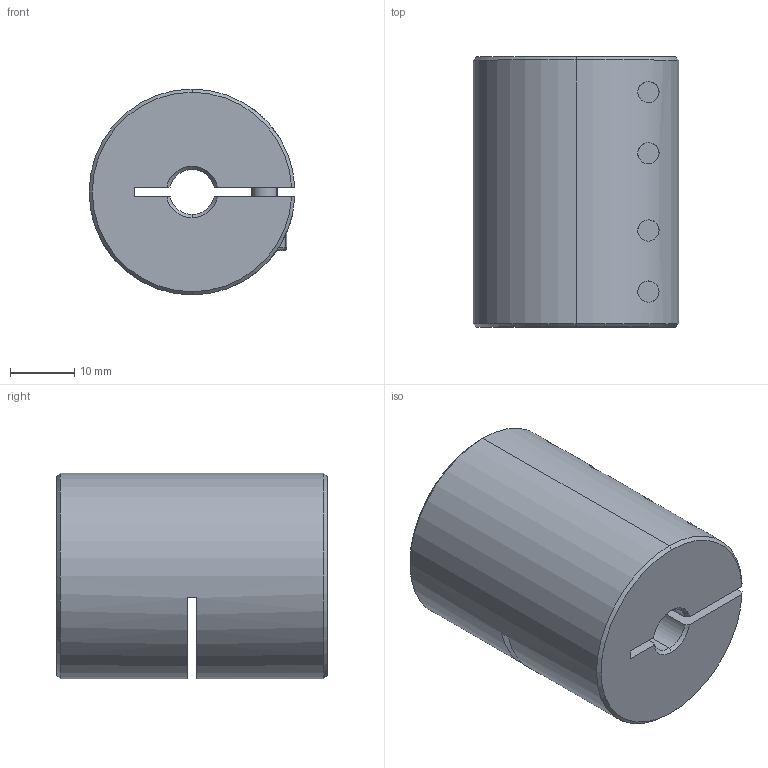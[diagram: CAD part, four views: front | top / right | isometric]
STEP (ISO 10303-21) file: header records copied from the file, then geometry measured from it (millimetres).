
FILE_DESCRIPTION (( 'STEP AP203' ), '1' );
FILE_NAME ('LL-B-D32L42-7-7.STEP', '2021-11-05T07:40:25', ( '' ), ( '' ), 'SwSTEP 2.0', 'SolidWorks 2018', '' );
FILE_SCHEMA (( 'CONFIG_CONTROL_DESIGN' ));
Length unit declared in the file: millimetre
Products named in the file (1): LL-B-D32L42-7-7
Bounding box: 31.98 x 42 x 32 mm (x, y, z)
Volume: 29617 mm3; surface area: 10274.2 mm2
Topology: 1 solids, 1 shells, 188 faces, 477 edges, 299 vertices
Faces by surface type: plane 86, cylinder 74, cone 20, torus 8
Entity records: 6205 total; most frequent: CARTESIAN_POINT 1529, DIRECTION 1006, ORIENTED_EDGE 938, EDGE_CURVE 469, AXIS2_PLACEMENT_3D 392, VERTEX_POINT 299, LINE 222, VECTOR 222
